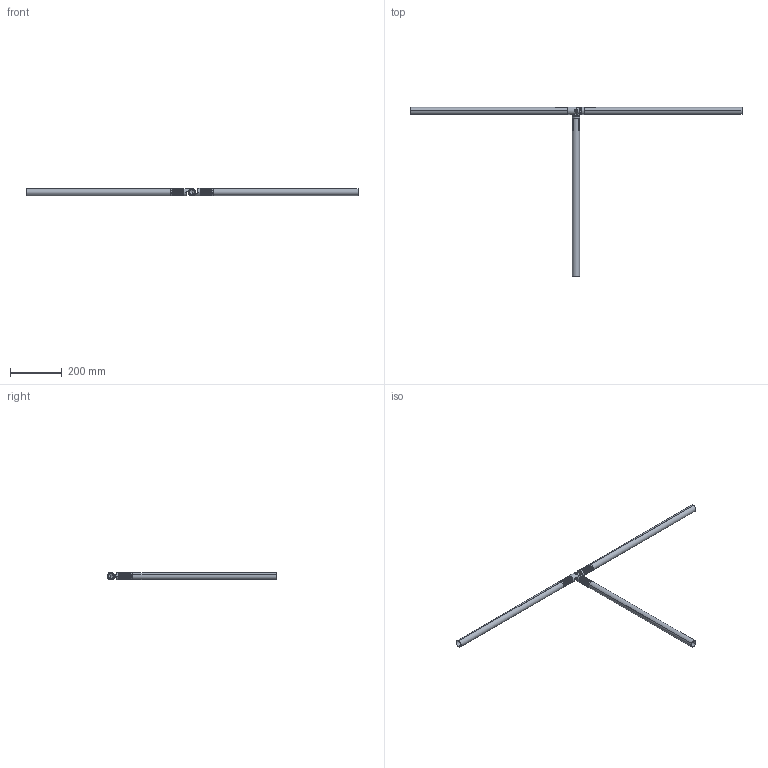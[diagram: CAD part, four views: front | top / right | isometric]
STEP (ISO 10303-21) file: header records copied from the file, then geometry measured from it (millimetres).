
FILE_DESCRIPTION (( 'STEP AP214' ), '1' );
FILE_NAME ('Angularly Adjustable Tube to Tube.STEP', '2013-08-19T15:58:26', ( 'ydmin' ), ( 'Microsoft' ), 'SwSTEP 2.0', 'SolidWorks 2013', '' );
FILE_SCHEMA (( 'AUTOMOTIVE_DESIGN' ));
Length unit declared in the file: inch
Products named in the file (7): DRP-002-0511-00_LEFT-TO-RIGHT OUTER TUBE INSERT; Angularly Adjustable Tube to Tube; 6.000 Inch Tube; 91255A542_91255A542; 91990A255 (1)_91990A255; DRP-002-0512-00_LEFT-TO-RIGHT OUTER TUBE INSERT; DRP-002-0509-00_MALE YOKE TUBE INSERT
Assembly tree (8 placements, depth 2):
  Angularly Adjustable Tube to Tube
    DRP-002-0511-00_LEFT-TO-RIGHT OUTER TUBE INSERT
    DRP-002-0509-00_MALE YOKE TUBE INSERT
    DRP-002-0512-00_LEFT-TO-RIGHT OUTER TUBE INSERT
    91990A255 (1)_91990A255
    91255A542_91255A542
    6.000 Inch Tube  x3
Bounding box: 1280.97 x 654.77 x 30.45 mm (x, y, z)
Volume: 213773.1 mm3; surface area: 342530.5 mm2
Topology: 8 solids, 8 shells, 892 faces, 2442 edges, 1564 vertices
Faces by surface type: cylinder 411, plane 342, cone 101, torus 24, bspline 8, sphere 6
Entity records: 32457 total; most frequent: CARTESIAN_POINT 9402, DIRECTION 4875, ORIENTED_EDGE 4824, EDGE_CURVE 2412, AXIS2_PLACEMENT_3D 1737, VERTEX_POINT 1548, LINE 1401, VECTOR 1401
